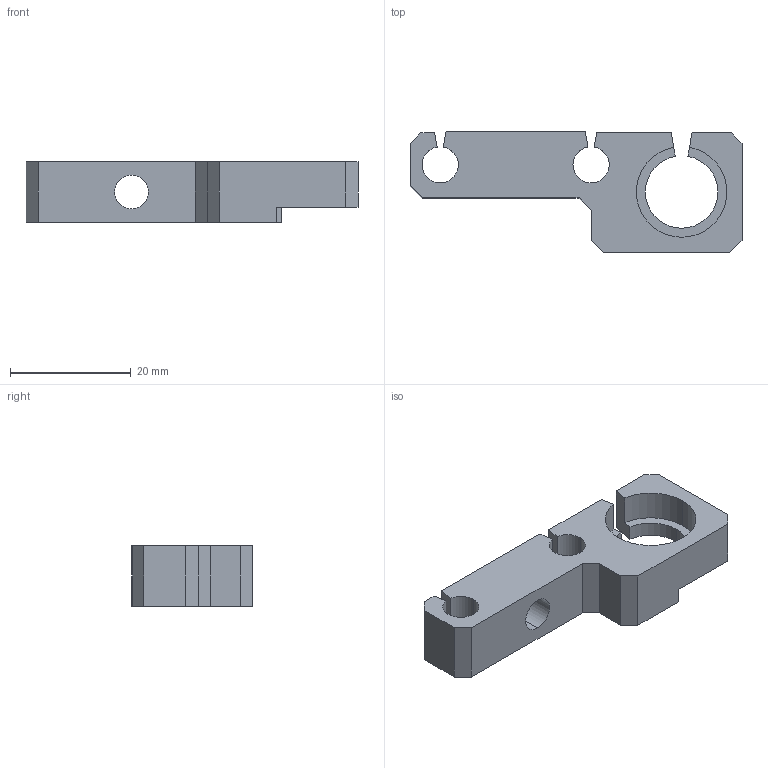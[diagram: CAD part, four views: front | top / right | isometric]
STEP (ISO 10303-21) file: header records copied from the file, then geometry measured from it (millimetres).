
FILE_DESCRIPTION (( 'STEP AP214' ), '1' );
FILE_NAME ('2024-34 - CAGE ALIGNER START.STEP', '2024-08-31T17:05:14', ( '' ), ( '' ), 'SwSTEP 2.0', 'SolidWorks 2024', '' );
FILE_SCHEMA (( 'AUTOMOTIVE_DESIGN' ));
Length unit declared in the file: millimetre
Products named in the file (1): 2024-34 - CAGE ALIGNER START
Bounding box: 55 x 20 x 10 mm (x, y, z)
Volume: 5268.3 mm3; surface area: 3524.7 mm2
Topology: 1 solids, 1 shells, 46 faces, 129 edges, 86 vertices
Faces by surface type: plane 28, cylinder 18
Entity records: 1516 total; most frequent: CARTESIAN_POINT 262, DIRECTION 259, ORIENTED_EDGE 258, EDGE_CURVE 129, LINE 93, VECTOR 93, VERTEX_POINT 86, AXIS2_PLACEMENT_3D 83
